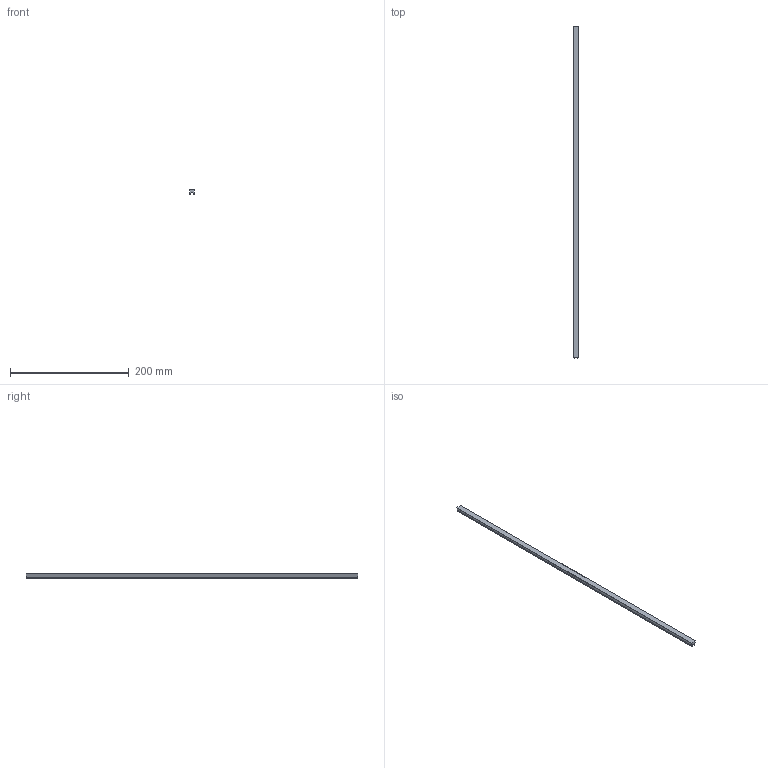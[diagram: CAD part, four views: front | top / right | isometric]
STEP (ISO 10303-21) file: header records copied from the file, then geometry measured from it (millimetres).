
FILE_DESCRIPTION(('CAx-IF Rec.Pracs.---Model Styling and Organization---1.2---2011-12-15','CAx-IF Rec.Pracs.---Geometric and Assembly Validation Properties---4.1---2014-06-16','CAx-IF Rec.Pracs.---PMI Polyline Presentation---2.0---2013-05-24'),'2;1');
FILE_NAME('021Y70NY03.stp','2017-12-22T06:26:42+01:00',(''),(''),'STEP Interface 4.1 Sp1 by CT CoreTechnologie','3D_Evolution4.1 Sp1 by CT CoreTechnologie','');
FILE_SCHEMA(('AUTOMOTIVE_DESIGN { 1 0 10303 214 1 1 1 1 }'));
Length unit declared in the file: millimetre
Products named in the file (1): 021-70N-03
Bounding box: 9.81 x 560 x 7.99 mm (x, y, z)
Volume: 27468.9 mm3; surface area: 21787 mm2
Topology: 1 solids, 1 shells, 22 faces, 60 edges, 40 vertices
Faces by surface type: plane 15, cylinder 7
Entity records: 891 total; most frequent: CARTESIAN_POINT 123, DIRECTION 120, ORIENTED_EDGE 120, EDGE_CURVE 60, VECTOR 46, LINE 46, VERTEX_POINT 40, AXIS2_PLACEMENT_3D 37
